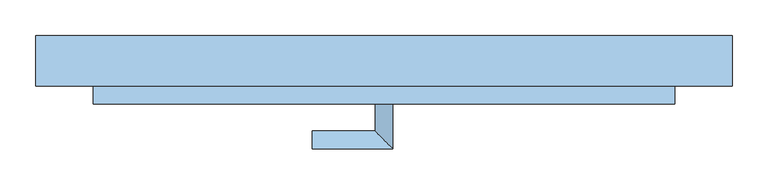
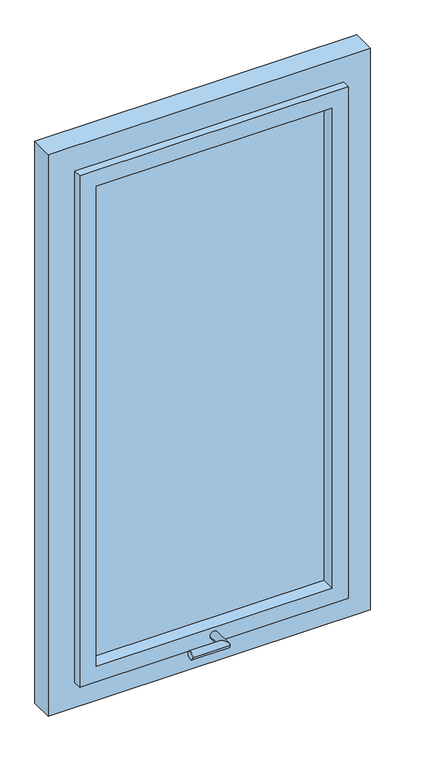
"""IFC4 building model written with IfcOpenShell, lengths in millimetres: window geometry, RFAM2316_Window-10 : Window  FIX (0,89x1,8)."""

import ifcopenshell
import ifcopenshell.guid

model = None  # the IFC model being written
_history = None  # IfcOwnerHistory: only IFC2X3 demands one
_inside = {}  # id of a spatial element -> (the spatial element, [elements in it])
_under = {}  # id of a project, library or spatial element -> (it, [spatial elements below it])
_declared = {}  # id of a project -> (the project, [libraries it declares])
_typed = {}  # id of a type object -> (the type object, [elements of that type])
_made_of = {}  # id of a material, layer set ... -> (it, [elements and type objects made of it])


def new_model(schema):
    """Start an empty IFC model of exactly this schema.

    Asked for "IFC4X3", IfcOpenShell would pick the latest addendum, in which some entities
    have other attributes; the version numbers below select the first issue.
    IFC2X3 requires an IfcOwnerHistory on every rooted entity: one is made here for all.
    """
    global model, _history
    if schema == "IFC4X3":
        model = ifcopenshell.file(schema_version=(4, 3, 0, 0))
    else:
        model = ifcopenshell.file(schema=schema)
    _inside.clear()
    _under.clear()
    _declared.clear()
    _typed.clear()
    _made_of.clear()
    _history = None
    if model.schema == "IFC2X3":
        org = make("IfcOrganization", Name="unknown")
        user = make(
            "IfcPersonAndOrganization",
            ThePerson=make("IfcPerson", FamilyName="unknown"),
            TheOrganization=org,
        )
        app = make(
            "IfcApplication",
            ApplicationDeveloper=org,
            Version="unknown",
            ApplicationFullName="unknown",
            ApplicationIdentifier="unknown",
        )
        _history = make(
            "IfcOwnerHistory",
            OwningUser=user,
            OwningApplication=app,
            ChangeAction="ADDED",
            CreationDate=0,
        )
    return model


def make(cls, **values):
    """One entity of the class cls with the attributes given. An attribute that is None is left unset."""
    return model.create_entity(
        cls, **{name: value for name, value in values.items() if value is not None}
    )


def rooted(cls, **values):
    """An entity with a GlobalId (a new one), such as an element, a storey or a relation."""
    return make(cls, GlobalId=ifcopenshell.guid.new(), OwnerHistory=_history, **values)


def si_unit(unit_type, name, prefix=None):
    """IfcSIUnit, for example si_unit("LENGTHUNIT", "METRE", prefix="MILLI")."""
    return make("IfcSIUnit", UnitType=unit_type, Prefix=prefix, Name=name)


def assignment(units):
    """IfcUnitAssignment: the units of a project."""
    return None if units is None else make("IfcUnitAssignment", Units=units)


def point(xyz):
    """IfcCartesianPoint."""
    return None if xyz is None else make("IfcCartesianPoint", Coordinates=xyz)


def direction(xyz):
    """IfcDirection."""
    return None if xyz is None else make("IfcDirection", DirectionRatios=xyz)


def frame(location, z_axis=None, x_axis=None):
    """IfcAxis2Placement3D, a coordinate frame: its origin and axes. An axis left out is left unset."""
    return make(
        "IfcAxis2Placement3D",
        Location=point(location),
        Axis=direction(z_axis),
        RefDirection=direction(x_axis),
    )


def origin():
    """The frame at (0, 0, 0) with its axes left unset."""
    return frame((0.0, 0.0, 0.0))


def place(relative_to, where):
    """IfcLocalPlacement: puts the frame where relative to a parent placement (None: the world)."""
    return make(
        "IfcLocalPlacement", PlacementRelTo=relative_to, RelativePlacement=where
    )


def context(
    kind, dimensions, precision=None, world=None, true_north=None, identifier=None
):
    """IfcGeometricRepresentationContext, for example the 3D "Model" context."""
    return make(
        "IfcGeometricRepresentationContext",
        ContextIdentifier=identifier,
        ContextType=kind,
        CoordinateSpaceDimension=dimensions,
        Precision=precision,
        WorldCoordinateSystem=world,
        TrueNorth=true_north,
    )


def project(units=None, contexts=None):
    """IfcProject with its units and contexts."""
    return rooted(
        "IfcProject",
        Name="project",
        RepresentationContexts=contexts,
        UnitsInContext=assignment(units),
    )


def spatial(cls, under=None, at=None, **own):
    """A site, building, storey or space (cls), placed at a placement, below another one or the project."""
    s = rooted(cls, ObjectPlacement=at, **own)
    if under is not None:
        _under.setdefault(under.id(), (under, []))[1].append(s)
    return s


def polyline(points):
    """IfcPolyline through the points."""
    return make("IfcPolyline", Points=[point(p) for p in points])


def circle_curve(where, radius):
    """IfcCircle in the frame where."""
    return make("IfcCircle", Position=where, Radius=radius)


def ellipse_curve(where, semi_axis1, semi_axis2):
    """IfcEllipse in the frame where."""
    return make(
        "IfcEllipse", Position=where, SemiAxis1=semi_axis1, SemiAxis2=semi_axis2
    )


def outline(outer, holes=None, kind="AREA"):
    """IfcArbitraryClosedProfileDef: a profile drawn as a closed curve; with holes, ...WithVoids."""
    if holes is None:
        return make("IfcArbitraryClosedProfileDef", ProfileType=kind, OuterCurve=outer)
    return make(
        "IfcArbitraryProfileDefWithVoids",
        ProfileType=kind,
        OuterCurve=outer,
        InnerCurves=holes,
    )


def extrude(swept, where, along, depth):
    """IfcExtrudedAreaSolid: the profile swept, set in the frame where, extruded along a direction by depth."""
    return make(
        "IfcExtrudedAreaSolid",
        SweptArea=swept,
        Position=where,
        ExtrudedDirection=direction(along),
        Depth=depth,
    )


def faces_of(points, faces, orient=None, outer=None):
    """IfcFace entities. A face is a list of loops; a loop is a list of indices into points, from 0.

    orient and outer hold one flag for each loop. By default every Orientation is true, the
    first loop of a face is its IfcFaceOuterBound and the others are IfcFaceBound.
    """
    made = []
    for i, loops in enumerate(faces):
        bounds = []
        for j, loop in enumerate(loops):
            is_outer = j == 0 if outer is None else outer[i][j]
            bounds.append(
                make(
                    "IfcFaceOuterBound" if is_outer else "IfcFaceBound",
                    Bound=make("IfcPolyLoop", Polygon=[points[k] for k in loop]),
                    Orientation=True if orient is None else orient[i][j],
                )
            )
        made.append(make("IfcFace", Bounds=bounds))
    return made


def faceted_brep(points, faces, orient=None, outer=None, voids=None):
    """IfcFacetedBrep: a solid bounded by flat faces; with voids (closed shells), ...WithVoids."""
    shared = [point(p) for p in points]
    hull = make("IfcClosedShell", CfsFaces=faces_of(shared, faces, orient, outer))
    if voids is None:
        return make("IfcFacetedBrep", Outer=hull)
    return make(
        "IfcFacetedBrepWithVoids",
        Outer=hull,
        Voids=[
            make(cls, CfsFaces=faces_of(shared, fs, o, b)) for cls, fs, o, b in voids
        ],
    )


def shape(context_of_items, identifier, shape_type, items):
    """IfcShapeRepresentation: the items that make up one representation, for example the "Body"."""
    return make(
        "IfcShapeRepresentation",
        ContextOfItems=context_of_items,
        RepresentationIdentifier=identifier,
        RepresentationType=shape_type,
        Items=items,
    )


def source(mapping_origin, context_of_items, identifier, shape_type, items):
    """IfcRepresentationMap: a shape defined once, which mapped items show again and again."""
    return make(
        "IfcRepresentationMap",
        MappingOrigin=mapping_origin,
        MappedRepresentation=shape(context_of_items, identifier, shape_type, items),
    )


def transform(
    local_origin,
    x_axis=None,
    y_axis=None,
    z_axis=None,
    scale=None,
    scale2=None,
    scale3=None,
    uniform=True,
):
    """IfcCartesianTransformationOperator3D, or its non-uniform kind. x_axis, y_axis, z_axis: its Axis1, 2, 3."""
    if uniform:
        return make(
            "IfcCartesianTransformationOperator3D",
            Axis1=direction(x_axis),
            Axis2=direction(y_axis),
            LocalOrigin=point(local_origin),
            Scale=scale,
            Axis3=direction(z_axis),
        )
    return make(
        "IfcCartesianTransformationOperator3DnonUniform",
        Axis1=direction(x_axis),
        Axis2=direction(y_axis),
        LocalOrigin=point(local_origin),
        Scale=scale,
        Axis3=direction(z_axis),
        Scale2=scale2,
        Scale3=scale3,
    )


def mapped(mapping_source, mapping_target):
    """IfcMappedItem: shows the shape of a source again, moved by a transform."""
    return make(
        "IfcMappedItem", MappingSource=mapping_source, MappingTarget=mapping_target
    )


def made_of(thing, what):
    """Note that an element or type object is made of a material, layer set ...; save() writes the relation."""
    if what is not None:
        _made_of.setdefault(what.id(), (what, []))[1].append(thing)
    return thing


def element(
    cls,
    number,
    at=None,
    inside=None,
    cuts=None,
    type_object=None,
    material=None,
    context=None,
    identifier="Body",
    shape_type=None,
    held_by="IfcProductDefinitionShape",
    body=None,
    shapes=None,
    **own,
):
    """One element of the class cls, such as IfcWall. Its Tag is "e" and its number.

    at: its placement. inside: the storey or other place that contains it. cuts: it is an
    opening in that element (IfcRelVoidsElement). A single representation is given by context,
    identifier, shape_type and body (its items); several are given by shapes. held_by: the class
    of the entity that holds the representations. save() writes the other relations.
    """
    e = rooted(cls, Tag="e%d" % number, ObjectPlacement=at, **own)
    if body is not None:
        shapes = [shape(context, identifier, shape_type, body)]
    if shapes is not None:
        e.Representation = make(held_by, Representations=shapes)
    if inside is not None:
        _inside.setdefault(inside.id(), (inside, []))[1].append(e)
    if cuts is not None:
        rooted(
            "IfcRelVoidsElement", RelatingBuildingElement=cuts, RelatedOpeningElement=e
        )
    if type_object is not None:
        _typed.setdefault(type_object.id(), (type_object, []))[1].append(e)
    return made_of(e, material)


def aggregate(whole, parts):
    """IfcRelAggregates: a whole, such as a stair, and the parts it consists of."""
    return rooted("IfcRelAggregates", RelatingObject=whole, RelatedObjects=parts)


def save(model, path):
    """Write the relations noted so far, then the file.

    IfcRelAggregates (storeys below a building ...), IfcRelContainedInSpatialStructure (elements
    in a storey), IfcRelDefinesByType, IfcRelAssociatesMaterial and IfcRelDeclares: one each for
    every whole, place, type object, material and project.
    """
    for whole, parts in _under.values():
        aggregate(whole, parts)
    for where, things in _inside.values():
        rooted(
            "IfcRelContainedInSpatialStructure",
            RelatedElements=things,
            RelatingStructure=where,
        )
    for kind, things in _typed.values():
        rooted("IfcRelDefinesByType", RelatedObjects=things, RelatingType=kind)
    for what, things in _made_of.values():
        rooted("IfcRelAssociatesMaterial", RelatedObjects=things, RelatingMaterial=what)
    for by, libraries in _declared.values():
        rooted("IfcRelDeclares", RelatingContext=by, RelatedDefinitions=libraries)
    model.write(path)


def plane_surface(at):
    """IfcPlane: the flat surface through the origin of the frame at, square to its z axis."""
    return make("IfcPlane", Position=at)


def cylinder_surface(at, radius):
    """IfcCylindricalSurface: all points at the distance radius from the z axis of the frame at."""
    return make("IfcCylindricalSurface", Position=at, Radius=radius)


def advanced_brep(points, edges, surfaces, faces):
    """IfcAdvancedBrep: a solid bounded by faces that lie on surfaces and meet in shared edges.

    An edge is (start, end): straight between two places in points (the first is 0);
    or (start, end, curve); or (start, end, curve, False) where it runs against its curve.
    A face is (place in surfaces, loops), or (place, loops, False) where it looks against
    its surface's normal. A loop lists edges by number (the first is 1), with a minus sign
    where the edge is run from its end to its start. The first loop is the outer one.
    """
    corners = [point(p) for p in points]
    vertices = [make("IfcVertexPoint", VertexGeometry=c) for c in corners]
    made = []
    for start, end, *more in edges:
        made.append(
            make(
                "IfcEdgeCurve",
                EdgeStart=vertices[start],
                EdgeEnd=vertices[end],
                EdgeGeometry=more[0] if more else make("IfcPolyline", Points=[corners[start], corners[end]]),
                SameSense=more[1] if len(more) > 1 else True,
            )
        )
    hull = []
    for where, loops, *sense in faces:
        bounds = []
        for j, loop in enumerate(loops):
            ring = [make("IfcOrientedEdge", EdgeElement=made[abs(k) - 1], Orientation=k > 0) for k in loop]
            bounds.append(
                make(
                    "IfcFaceOuterBound" if j == 0 else "IfcFaceBound",
                    Bound=make("IfcEdgeLoop", EdgeList=ring),
                    Orientation=True,
                )
            )
        hull.append(make("IfcAdvancedFace", Bounds=bounds, FaceSurface=surfaces[where], SameSense=sense[0] if sense else True))
    return make("IfcAdvancedBrep", Outer=make("IfcClosedShell", CfsFaces=hull))


def window_542cb4d6(model_context):
    return source(origin(), model_context, "Body", "SolidModel", [
        advanced_brep(
        [(244.3584094, -189.9407167, 1005.0), (269.3584094, -189.9407167, 1005.0), (244.3584094, -227.4407167, 1005.0), (269.3584094, -252.4407167, 1005.0), (156.8584094, -227.4407167, 1005.0), (156.8584094, -252.4407167, 1005.0)],
        [
            (0, 1, circle_curve(frame((256.8584094, -189.9407167, 1005.0), z_axis=(0.0, 1.0, 0.0), x_axis=(1.0, 0.0, 0.0)), 12.5)),
            (1, 0, circle_curve(frame((256.8584094, -189.9407167, 1005.0), z_axis=(0.0, 1.0, 0.0), x_axis=(1.0, 0.0, 0.0)), 12.5)),
            (0, 2),
            (2, 3, ellipse_curve(frame((256.8584094, -239.9407167, 1005.0), z_axis=(0.7071067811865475, 0.7071067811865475, 0.0), x_axis=(-0.7071067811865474, 0.7071067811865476, 0.0)), 17.6776695, 12.5)),
            (3, 1),
            (3, 2, ellipse_curve(frame((256.8584094, -239.9407167, 1005.0), z_axis=(0.7071067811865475, 0.7071067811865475, 0.0), x_axis=(-0.7071067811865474, 0.7071067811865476, 0.0)), 17.6776695, 12.5)),
            (4, 5, circle_curve(frame((156.8584094, -239.9407167, 1005.0), z_axis=(-1.0, 0.0, 0.0), x_axis=(0.0, -1.0, 0.0)), 12.5)),
            (5, 4, circle_curve(frame((156.8584094, -239.9407167, 1005.0), z_axis=(-1.0, 0.0, 0.0), x_axis=(0.0, -1.0, 0.0)), 12.5)),
            (2, 4),
            (5, 3),
        ],
        [
            plane_surface(frame((256.8584094, -189.9407167, 1005.0), z_axis=(0.0, 1.0, 0.0), x_axis=(0.0, 0.0, 1.0))),
            cylinder_surface(frame((256.8584094, -189.9407167, 1005.0), z_axis=(0.0, 1.0, 0.0), x_axis=(1.0, 0.0, 0.0)), 12.5),
            plane_surface(frame((156.8584094, -239.9407167, 1005.0), z_axis=(-1.0, 0.0, 0.0), x_axis=(0.0, 0.0, 1.0))),
            cylinder_surface(frame((256.8584094, -239.9407167, 1005.0), z_axis=(1.0, 0.0, 0.0), x_axis=(0.0, -1.0, 0.0)), 12.5),
        ],
        [
            (0, [[1, 2]]),
            (1, [[-1, 3, 4, 5]]),
            (1, [[-2, -5, 6, -3]]),
            (2, [[7, 8]]),
            (3, [[-4, 9, -8, 10]]),
            (3, [[-6, -10, -7, -9]]),
        ],
    ),
        extrude(outline(polyline([(611.8584094, -140.9407167), (611.8584094, -148.9407167), (-98.1415906, -148.9407167), (-98.1415906, -140.9407167), (611.8584094, -140.9407167)])), frame((0.0, 0.0, 1030.0), z_axis=(0.0, 0.0, 1.0), x_axis=(1.0, 0.0, 0.0)), (0.0, 0.0, 1.0), 1530.0),
        faceted_brep([(-148.1415906, -119.9407167, 980.0), (661.8584094, -119.9407167, 980.0), (661.8584094, -164.9407167, 980.0), (661.8584094, -189.9407167, 980.0), (-148.1415906, -189.9407167, 980.0), (-148.1415906, -164.9407167, 980.0), (-98.1415906, -119.9407167, 1030.0), (-98.1415906, -189.9407167, 1030.0), (611.8584094, -189.9407167, 1030.0), (611.8584094, -119.9407167, 1030.0), (661.8584094, -119.9407167, 2610.0), (661.8584094, -164.9407167, 2610.0), (661.8584094, -189.9407167, 2610.0), (611.8584094, -189.9407167, 2560.0), (611.8584094, -119.9407167, 2560.0), (-148.1415906, -119.9407167, 2610.0), (-148.1415906, -164.9407167, 2610.0), (-148.1415906, -189.9407167, 2610.0), (-98.1415906, -189.9407167, 2560.0), (-98.1415906, -119.9407167, 2560.0)], [[[0, 1, 2, 3, 4, 5]], [[6, 7, 8, 9]], [[1, 10, 11, 12, 3, 2]], [[9, 8, 13, 14]], [[10, 15, 16, 17, 12, 11]], [[14, 13, 18, 19]], [[1, 0, 15, 10], [6, 9, 14, 19]], [[15, 0, 5, 4, 17, 16]], [[4, 3, 12, 17], [8, 7, 18, 13]], [[7, 6, 19, 18]]]),
        extrude(outline(polyline([(2690.0, 741.8584094), (2690.0, -228.1415906), (900.0, -228.1415906), (900.0, 741.8584094), (2690.0, 741.8584094)]), holes=[polyline([(2610.0, -148.1415906), (2610.0, 661.8584094), (980.0, 661.8584094), (980.0, -148.1415906), (2610.0, -148.1415906)])]), frame((0.0, -164.9407167, 0.0), z_axis=(0.0, 1.0, 0.0), x_axis=(0.0, 0.0, 1.0)), (0.0, 0.0, 1.0), 70.0),
    ])


if __name__ == "__main__":
    model = new_model("IFC4")
    model_context = context("Model", 3, world=origin())
    ifc_project = project(units=[si_unit("LENGTHUNIT", "METRE", prefix="MILLI")], contexts=[model_context])
    site = spatial("IfcSite", under=ifc_project)
    building = spatial("IfcBuilding", under=site)
    placement = place(None, origin())
    window_shape = window_542cb4d6(model_context)
    element("IfcWindow", 1, ObjectType="RFAM2316_Window-10 : Window  FIX (0,89x1,8)", at=placement, inside=building, context=model_context, shape_type="MappedRepresentation", body=[
        mapped(window_shape, transform((0.0, 0.0, 0.0), x_axis=(1.0, 0.0, 0.0), y_axis=(0.0, 1.0, 0.0), z_axis=(0.0, 0.0, 1.0))),
    ])
    save(model, "model.ifc")
